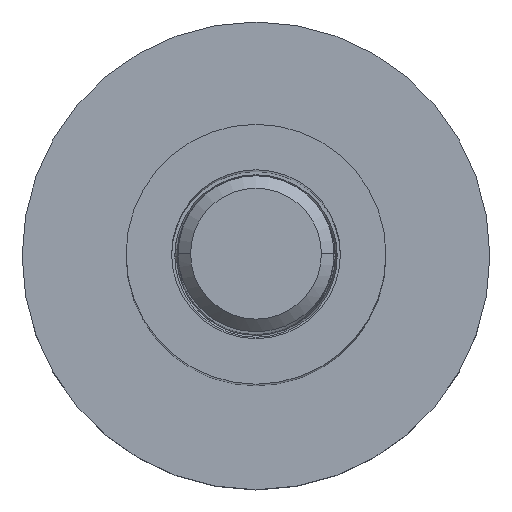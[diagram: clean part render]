
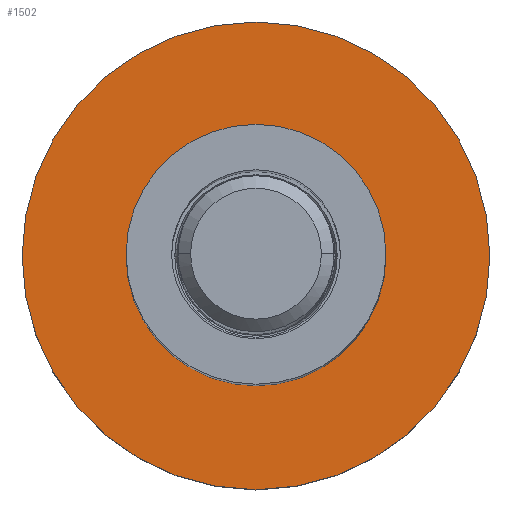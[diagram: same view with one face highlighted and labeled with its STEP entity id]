
A CAD part, top view. The second image highlights one B-rep face of the part: STEP entity #1502.
In plain terms, the highlighted planar face has unit normal (0, 0, 1).
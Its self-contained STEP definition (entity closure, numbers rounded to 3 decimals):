
#1340=CARTESIAN_POINT('Vertex',(18.,0.,5.)) ;
#1343=CARTESIAN_POINT('Axis2P3D Location',(0.,0.,5.)) ;
#1347=CARTESIAN_POINT('Vertex',(-18.,0.,5.)) ;
#1367=CARTESIAN_POINT('Axis2P3D Location',(0.,0.,5.)) ;
#1475=CARTESIAN_POINT('Axis2P3D Location',(0.,0.,5.)) ;
#1484=CARTESIAN_POINT('Axis2P3D Location',(0.,0.,5.)) ;
#1488=CARTESIAN_POINT('Vertex',(-10.,0.,5.)) ;
#1490=CARTESIAN_POINT('Vertex',(10.,0.,5.)) ;
#1493=CARTESIAN_POINT('Axis2P3D Location',(0.,0.,5.)) ;
#1344=DIRECTION('Axis2P3D Direction',(0.,0.,-1.)) ;
#1368=DIRECTION('Axis2P3D Direction',(0.,0.,-1.)) ;
#1476=DIRECTION('Axis2P3D Direction',(0.,0.,1.)) ;
#1477=DIRECTION('Axis2P3D XDirection',(1.,0.,0.)) ;
#1485=DIRECTION('Axis2P3D Direction',(0.,0.,1.)) ;
#1494=DIRECTION('Axis2P3D Direction',(0.,0.,1.)) ;
#1345=AXIS2_PLACEMENT_3D('Circle Axis2P3D',#1343,#1344,$) ;
#1369=AXIS2_PLACEMENT_3D('Circle Axis2P3D',#1367,#1368,$) ;
#1478=AXIS2_PLACEMENT_3D('Plane Axis2P3D',#1475,#1476,#1477) ;
#1486=AXIS2_PLACEMENT_3D('Circle Axis2P3D',#1484,#1485,$) ;
#1495=AXIS2_PLACEMENT_3D('Circle Axis2P3D',#1493,#1494,$) ;
#1481=ORIENTED_EDGE('',*,*,#1349,.T.) ;
#1482=ORIENTED_EDGE('',*,*,#1371,.T.) ;
#1499=ORIENTED_EDGE('',*,*,#1492,.F.) ;
#1500=ORIENTED_EDGE('',*,*,#1497,.F.) ;
#1501=FACE_BOUND('',#1498,.T.) ;
#1502=ADVANCED_FACE('NONE',(#1483,#1501),#1479,.T.) ;
#1346=CIRCLE('generated circle',#1345,18.) ;
#1370=CIRCLE('generated circle',#1369,18.) ;
#1487=CIRCLE('generated circle',#1486,10.) ;
#1496=CIRCLE('generated circle',#1495,10.) ;
#1349=EDGE_CURVE('',#1348,#1341,#1346,.F.) ;
#1371=EDGE_CURVE('',#1341,#1348,#1370,.F.) ;
#1492=EDGE_CURVE('',#1489,#1491,#1487,.T.) ;
#1497=EDGE_CURVE('',#1491,#1489,#1496,.T.) ;
#1480=EDGE_LOOP('',(#1481,#1482)) ;
#1498=EDGE_LOOP('',(#1499,#1500)) ;
#1483=FACE_OUTER_BOUND('',#1480,.T.) ;
#1479=PLANE('Plane',#1478) ;
#1341=VERTEX_POINT('',#1340) ;
#1348=VERTEX_POINT('',#1347) ;
#1489=VERTEX_POINT('',#1488) ;
#1491=VERTEX_POINT('',#1490) ;
